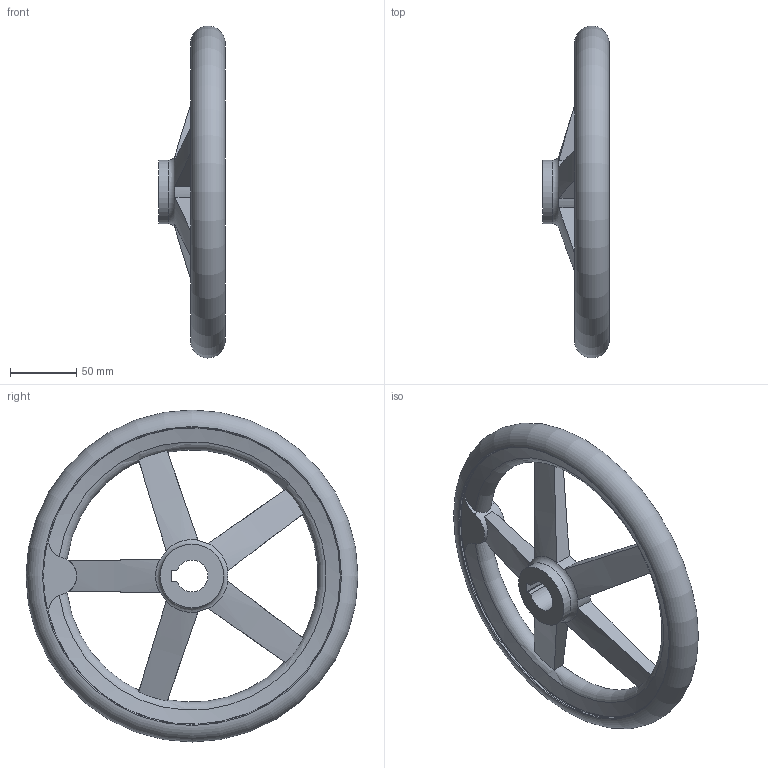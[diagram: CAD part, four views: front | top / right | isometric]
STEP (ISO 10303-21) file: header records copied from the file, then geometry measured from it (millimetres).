
FILE_DESCRIPTION( ( 'STEP AP203' ), '1' );
FILE_NAME( 'C:/Temp/Ganter_Step_05_03_2020/data/1_3/din_950/din_950_k/din_950_k_a/Handwheel DIN 950-AL-250-K24-A.stp', '2020-03-05T10:30:39', ( 'License CC BY-ND 4.0' ), ( 'CADENAS' ), ' ', 'PARTsolutions', ' ' );
FILE_SCHEMA( ( 'CONFIG_CONTROL_DESIGN' ) );
Length unit declared in the file: millimetre
Products named in the file (1): _Handwheel DIN 950-AL-250-K24-A
Bounding box: 50 x 249.99 x 249.99 mm (x, y, z)
Volume: 514296.7 mm3; surface area: 95015.5 mm2
Topology: 1 solids, 1 shells, 54 faces, 162 edges, 105 vertices
Faces by surface type: cylinder 17, plane 17, torus 12, cone 8
Full cylindrical faces by diameter (mm): 48 x2, 224 x2
Entity records: 2284 total; most frequent: CARTESIAN_POINT 905, ORIENTED_EDGE 292, DIRECTION 250, EDGE_CURVE 146, AXIS2_PLACEMENT_3D 111, VERTEX_POINT 102, EDGE_LOOP 73, FACE_OUTER_BOUND 65
